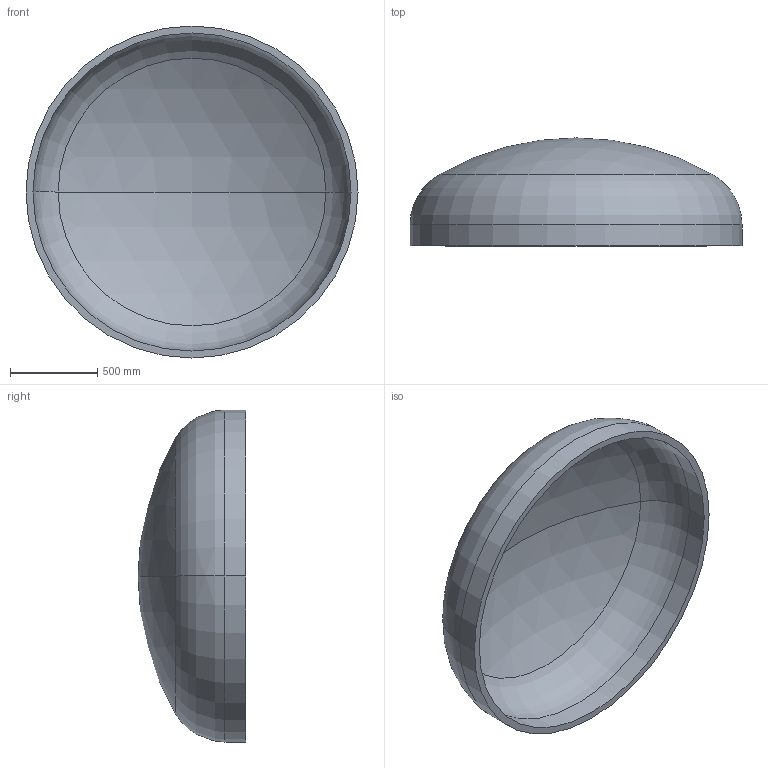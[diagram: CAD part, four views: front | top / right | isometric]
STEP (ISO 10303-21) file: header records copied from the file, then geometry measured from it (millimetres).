
FILE_DESCRIPTION (( 'STEP AP203' ), '1' );
FILE_NAME ('DIN 28013 Korbbogenform_-_Boden DIN 28013 - 1900 x 120 - I - s=40.step', '2016-07-01T13:08:31', ( '' ), ( '' ), 'SwSTEP 2.0', 'SolidWorks 2013', '' );
FILE_SCHEMA (( 'CONFIG_CONTROL_DESIGN' ));
Length unit declared in the file: millimetre
Products named in the file (1): DIN 28013 Korbbogenform_-_Boden DIN 28013 - 1900 x 120 - I - s=40
Bounding box: 1900 x 617.69 x 1900 mm (x, y, z)
Volume: 180561081.9 mm3; surface area: 9265136.8 mm2
Topology: 1 solids, 1 shells, 13 faces, 24 edges, 14 vertices
Faces by surface type: torus 4, cylinder 4, sphere 4, plane 1
Entity records: 407 total; most frequent: DIRECTION 72, CARTESIAN_POINT 52, ORIENTED_EDGE 48, AXIS2_PLACEMENT_3D 34, EDGE_CURVE 24, CIRCLE 20, VERTEX_POINT 14, EDGE_LOOP 14
